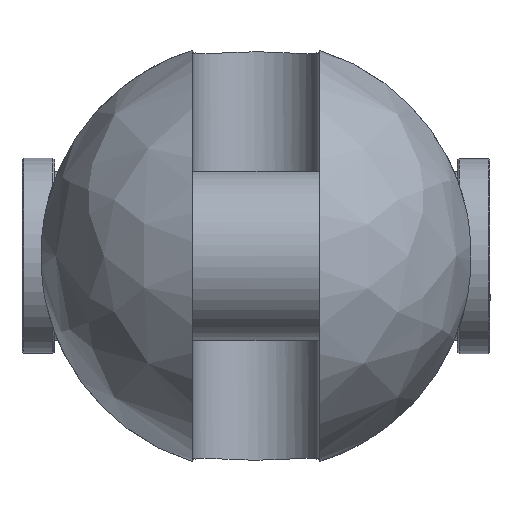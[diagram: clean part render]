
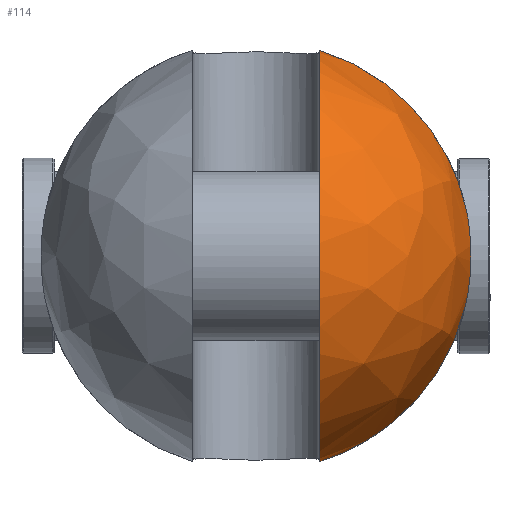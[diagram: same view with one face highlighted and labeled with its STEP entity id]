
A CAD part, left-side view. The second image highlights one B-rep face of the part: STEP entity #114.
In plain terms, the highlighted free-form (B-spline) face has degree [2, 2] with [9, 5] control points.
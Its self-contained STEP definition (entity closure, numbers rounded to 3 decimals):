
#114=ADVANCED_FACE('',(#202),#1530,.T.);
#202=FACE_OUTER_BOUND('',#302,.T.);
#302=EDGE_LOOP('',(#744,#745,#746,#747));
#744=ORIENTED_EDGE('',*,*,#1002,.T.);
#745=ORIENTED_EDGE('',*,*,#999,.F.);
#746=ORIENTED_EDGE('',*,*,#1018,.T.);
#747=ORIENTED_EDGE('',*,*,#991,.F.);
#991=EDGE_CURVE('',#1420,#1421,#1252,.T.);
#999=EDGE_CURVE('',#1428,#1429,#1253,.T.);
#1002=EDGE_CURVE('',#1420,#1429,#1255,.T.);
#1018=EDGE_CURVE('',#1428,#1421,#1127,.T.);
#1127=B_SPLINE_CURVE_WITH_KNOTS('',3,(#3647,#3648,#3649,#3650,#3651,#3652,
#3653,#3654,#3655,#3656,#3657,#3658,#3659,#3660),.UNSPECIFIED.,.F.,.F.,
(4,2,2,2,2,2,4),(0.,2.95,9.508,16.065,22.623,
29.181,32.131),.UNSPECIFIED.);
#1252=(
BOUNDED_CURVE()
B_SPLINE_CURVE(2,(#3499,#3500,#3501),.UNSPECIFIED.,.F.,.F.)
B_SPLINE_CURVE_WITH_KNOTS((3,3),(0.,68.507),.UNSPECIFIED.)
CURVE()
GEOMETRIC_REPRESENTATION_ITEM()
RATIONAL_B_SPLINE_CURVE((1.,0.868,1.))
REPRESENTATION_ITEM('')
);
#1253=(
BOUNDED_CURVE()
B_SPLINE_CURVE(2,(#3556,#3557,#3558),.UNSPECIFIED.,.F.,.F.)
B_SPLINE_CURVE_WITH_KNOTS((3,3),(0.,68.507),.UNSPECIFIED.)
CURVE()
GEOMETRIC_REPRESENTATION_ITEM()
RATIONAL_B_SPLINE_CURVE((1.,0.868,1.))
REPRESENTATION_ITEM('')
);
#1255=(
BOUNDED_CURVE()
B_SPLINE_CURVE(2,(#3564,#3565,#3566,#3567,#3568),.UNSPECIFIED.,.F.,.F.)
B_SPLINE_CURVE_WITH_KNOTS((3,2,3),(-198.089,-99.044,
0.),.UNSPECIFIED.)
CURVE()
GEOMETRIC_REPRESENTATION_ITEM()
RATIONAL_B_SPLINE_CURVE((1.,0.707,1.,0.707,1.))
REPRESENTATION_ITEM('')
);
#1420=VERTEX_POINT('',#3297);
#1421=VERTEX_POINT('',#3298);
#1428=VERTEX_POINT('',#3305);
#1429=VERTEX_POINT('',#3306);
#1530=(
BOUNDED_SURFACE()
B_SPLINE_SURFACE(2,2,((#3169,#3170,#3171,#3172,#3173),(#3174,#3175,#3176,
#3177,#3178),(#3179,#3180,#3181,#3182,#3183),(#3184,#3185,#3186,#3187,#3188),
(#3189,#3190,#3191,#3192,#3193),(#3194,#3195,#3196,#3197,#3198),(#3199,
#3200,#3201,#3202,#3203),(#3204,#3205,#3206,#3207,#3208),(#3209,#3210,#3211,
#3212,#3213)),.UNSPECIFIED.,.T.,.F.,.F.)
B_SPLINE_SURFACE_WITH_KNOTS((3,2,2,2,3),(3,2,3),(0.,103.673,207.345,
311.018,414.69),(0.,103.673,207.345),
 .UNSPECIFIED.)
GEOMETRIC_REPRESENTATION_ITEM()
RATIONAL_B_SPLINE_SURFACE(((1.,0.707,1.,0.707,1.),
(0.707,0.5,0.707,0.5,0.707),(1.,0.707,
1.,0.707,1.),(0.707,0.5,0.707,0.5,0.707),
(1.,0.707,1.,0.707,1.),(0.707,0.5,0.707,
0.5,0.707),(1.,0.707,1.,0.707,1.),(0.707,
0.5,0.707,0.5,0.707),(1.,0.707,1.,0.707,
1.)))
REPRESENTATION_ITEM('')
SURFACE()
);
#3169=CARTESIAN_POINT('',(-93.,0.,0.));
#3170=CARTESIAN_POINT('',(-93.,66.,0.));
#3171=CARTESIAN_POINT('',(-27.,66.,0.));
#3172=CARTESIAN_POINT('',(39.,66.,0.));
#3173=CARTESIAN_POINT('',(39.,0.,0.));
#3174=CARTESIAN_POINT('',(-93.,0.,0.));
#3175=CARTESIAN_POINT('',(-93.,66.,66.));
#3176=CARTESIAN_POINT('',(-27.,66.,66.));
#3177=CARTESIAN_POINT('',(39.,66.,66.));
#3178=CARTESIAN_POINT('',(39.,0.,0.));
#3179=CARTESIAN_POINT('',(-93.,0.,0.));
#3180=CARTESIAN_POINT('',(-93.,0.,66.));
#3181=CARTESIAN_POINT('',(-27.,0.,66.));
#3182=CARTESIAN_POINT('',(39.,0.,66.));
#3183=CARTESIAN_POINT('',(39.,0.,0.));
#3184=CARTESIAN_POINT('',(-93.,0.,0.));
#3185=CARTESIAN_POINT('',(-93.,-66.,66.));
#3186=CARTESIAN_POINT('',(-27.,-66.,66.));
#3187=CARTESIAN_POINT('',(39.,-66.,66.));
#3188=CARTESIAN_POINT('',(39.,0.,0.));
#3189=CARTESIAN_POINT('',(-93.,0.,0.));
#3190=CARTESIAN_POINT('',(-93.,-66.,0.));
#3191=CARTESIAN_POINT('',(-27.,-66.,0.));
#3192=CARTESIAN_POINT('',(39.,-66.,0.));
#3193=CARTESIAN_POINT('',(39.,0.,0.));
#3194=CARTESIAN_POINT('',(-93.,0.,0.));
#3195=CARTESIAN_POINT('',(-93.,-66.,-66.));
#3196=CARTESIAN_POINT('',(-27.,-66.,-66.));
#3197=CARTESIAN_POINT('',(39.,-66.,-66.));
#3198=CARTESIAN_POINT('',(39.,0.,0.));
#3199=CARTESIAN_POINT('',(-93.,0.,0.));
#3200=CARTESIAN_POINT('',(-93.,0.,-66.));
#3201=CARTESIAN_POINT('',(-27.,0.,-66.));
#3202=CARTESIAN_POINT('',(39.,0.,-66.));
#3203=CARTESIAN_POINT('',(39.,0.,0.));
#3204=CARTESIAN_POINT('',(-93.,0.,0.));
#3205=CARTESIAN_POINT('',(-93.,66.,-66.));
#3206=CARTESIAN_POINT('',(-27.,66.,-66.));
#3207=CARTESIAN_POINT('',(39.,66.,-66.));
#3208=CARTESIAN_POINT('',(39.,0.,0.));
#3209=CARTESIAN_POINT('',(-93.,0.,0.));
#3210=CARTESIAN_POINT('',(-93.,66.,0.));
#3211=CARTESIAN_POINT('',(-27.,66.,0.));
#3212=CARTESIAN_POINT('',(39.,66.,0.));
#3213=CARTESIAN_POINT('',(39.,0.,0.));
#3297=CARTESIAN_POINT('',(-27.,-19.5,63.054));
#3298=CARTESIAN_POINT('',(-27.,-64.218,15.232));
#3305=CARTESIAN_POINT('',(-27.,-64.218,-15.232));
#3306=CARTESIAN_POINT('',(-27.,-19.5,-63.054));
#3499=CARTESIAN_POINT('',(-27.,-19.5,63.054));
#3500=CARTESIAN_POINT('',(-27.,-55.518,51.915));
#3501=CARTESIAN_POINT('',(-27.,-64.218,15.232));
#3556=CARTESIAN_POINT('',(-27.,-64.218,-15.232));
#3557=CARTESIAN_POINT('',(-27.,-55.518,-51.915));
#3558=CARTESIAN_POINT('',(-27.,-19.5,-63.054));
#3564=CARTESIAN_POINT('',(-27.,-19.5,63.054));
#3565=CARTESIAN_POINT('',(-90.054,-19.5,63.054));
#3566=CARTESIAN_POINT('',(-90.054,-19.5,0.));
#3567=CARTESIAN_POINT('',(-90.054,-19.5,-63.054));
#3568=CARTESIAN_POINT('',(-27.,-19.5,-63.054));
#3647=CARTESIAN_POINT('',(-27.,-64.218,-15.232));
#3648=CARTESIAN_POINT('',(-27.479,-64.42,-14.383));
#3649=CARTESIAN_POINT('',(-27.92,-64.604,-13.508));
#3650=CARTESIAN_POINT('',(-29.206,-65.14,-10.619));
#3651=CARTESIAN_POINT('',(-29.886,-65.421,-8.519));
#3652=CARTESIAN_POINT('',(-30.783,-65.79,-4.259));
#3653=CARTESIAN_POINT('',(-31.,-65.879,-2.1));
#3654=CARTESIAN_POINT('',(-31.,-65.879,2.1));
#3655=CARTESIAN_POINT('',(-30.783,-65.79,4.259));
#3656=CARTESIAN_POINT('',(-29.886,-65.421,8.519));
#3657=CARTESIAN_POINT('',(-29.206,-65.14,10.619));
#3658=CARTESIAN_POINT('',(-27.92,-64.604,13.508));
#3659=CARTESIAN_POINT('',(-27.479,-64.42,14.383));
#3660=CARTESIAN_POINT('',(-27.,-64.218,15.232));
